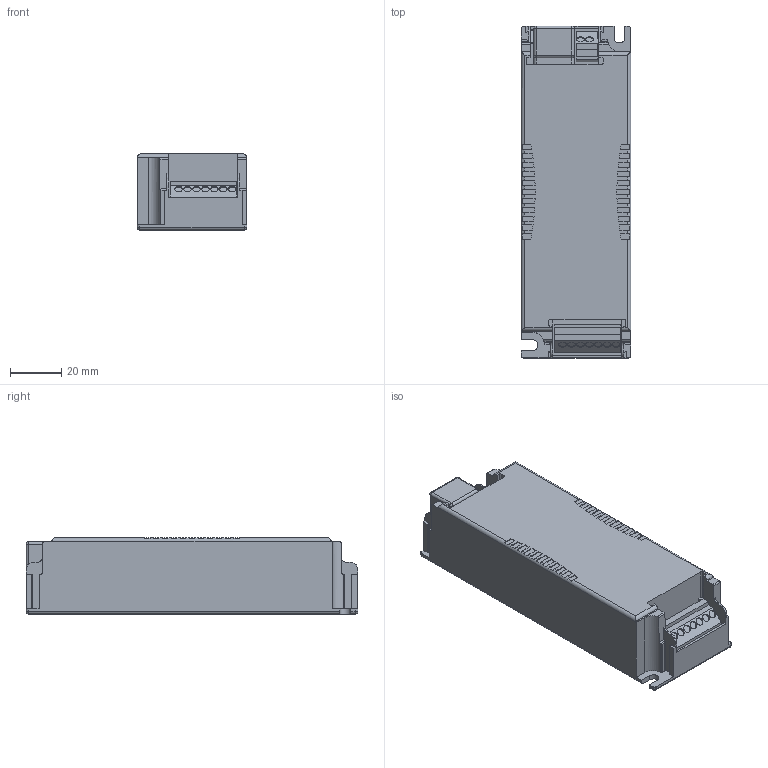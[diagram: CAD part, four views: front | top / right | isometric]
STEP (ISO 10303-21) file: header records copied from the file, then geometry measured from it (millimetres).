
FILE_DESCRIPTION((''),'2;1');
FILE_NAME('15009570Z_DATA_SC3_130_HYPE_7-2','2015-06-17T',('juergen.hrach'),(''),'PRO/ENGINEER BY PARAMETRIC TECHNOLOGY CORPORATION, 2014000','PRO/ENGINEER BY PARAMETRIC TECHNOLOGY CORPORATION, 2014000','');
FILE_SCHEMA(('AUTOMOTIVE_DESIGN { 1 0 10303 214 1 1 1 1 }'));
Length unit declared in the file: millimetre
Products named in the file (1): 15009570Z_DATA_SC3_130_HYPE_7-2
Bounding box: 43 x 130 x 29.8 mm (x, y, z)
Volume: 150176 mm3; surface area: 24460.2 mm2
Topology: 1 solids, 1 shells, 314 faces, 876 edges, 575 vertices
Faces by surface type: plane 188, cylinder 118, sphere 8
Entity records: 13479 total; most frequent: CARTESIAN_POINT 1872, DIRECTION 1753, ORIENTED_EDGE 1752, PRESENTATION_STYLE_ASSIGNMENT 901, STYLED_ITEM 877, CURVE_STYLE 876, EDGE_CURVE 876, VECTOR 593
